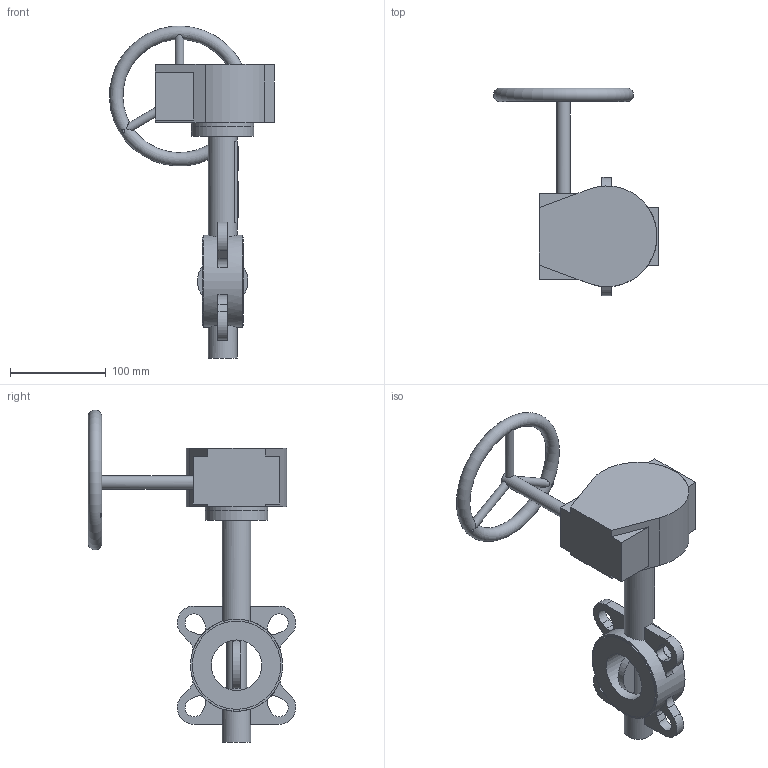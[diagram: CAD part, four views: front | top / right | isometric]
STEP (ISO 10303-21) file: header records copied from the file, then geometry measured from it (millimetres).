
FILE_DESCRIPTION(('STEP AP203'), '1');
FILE_NAME('Çàòâîð 017W.Z(÷óãóí) DN50 PN10_16 ðåäóêòîð', '', ('UNSPECIFIED'), ('UNSPECIFIED'), 'ASCON STEP Converter 1.6', 'ASCON Math Kernel', '');
FILE_SCHEMA(('CONFIG_CONTROL_DESIGN'));
Length unit declared in the file: millimetre
Bounding box: 171.93 x 216.17 x 345.97 mm (x, y, z)
Volume: 764347 mm3; surface area: 149417 mm2
Topology: 1 solids, 2 shells, 647 faces, 1895 edges, 1216 vertices
Faces by surface type: cylinder 444, plane 202, torus 1
Full cylindrical faces by diameter (mm): 5 x4, 8 x4, 9 x3, 12.6 x1, 14 x1, 21 x1, 30 x2, 35 x1, 52.6 x1, 65 x2, 92 x2, 96 x1
Entity records: 29013 total; most frequent: CARTESIAN_POINT 5830, DIRECTION 4096, ORIENTED_EDGE 3677, EDGE_CURVE 1870, AXIS2_PLACEMENT_3D 1604, VERTEX_POINT 1215, CIRCLE 956, LINE 888
